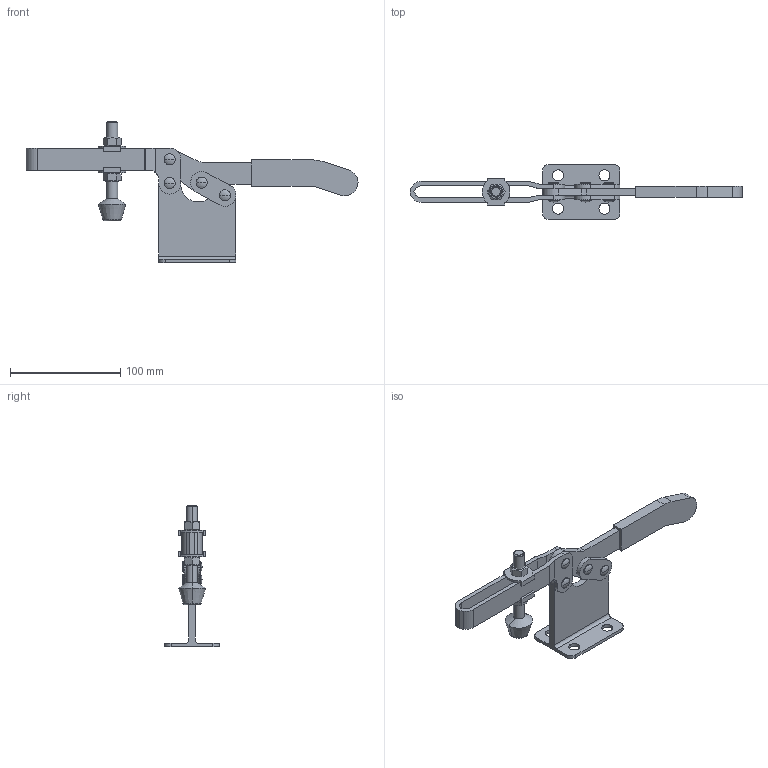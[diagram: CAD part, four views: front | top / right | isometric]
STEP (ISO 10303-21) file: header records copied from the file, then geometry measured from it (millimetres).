
FILE_DESCRIPTION(('CATIA V5 STEP Exchange'),'2;1');
FILE_NAME('D:\Model\toggle\toggle_standard\KJF_040_24F.stp','2005-06-24T03:02:03+00:00',('none'),('none'),'CATIA Version 5 Release 11 (IN-9)','CATIA V5 STEP AP203',' none');
FILE_SCHEMA(('CONFIG_CONTROL_DESIGN'));
Length unit declared in the file: millimetre
Products named in the file (1): Part1
Bounding box: 300.49 x 50 x 127.92 mm (x, y, z)
Volume: 122060 mm3; surface area: 58656.8 mm2
Topology: 14 solids, 14 shells, 216 faces, 521 edges, 334 vertices
Faces by surface type: plane 108, cylinder 76, cone 14, torus 10, sphere 8
Entity records: 6146 total; most frequent: CARTESIAN_POINT 1313, ORIENTED_EDGE 1026, DIRECTION 841, EDGE_CURVE 513, AXIS2_PLACEMENT_3D 382, VERTEX_POINT 334, VECTOR 281, LINE 281
